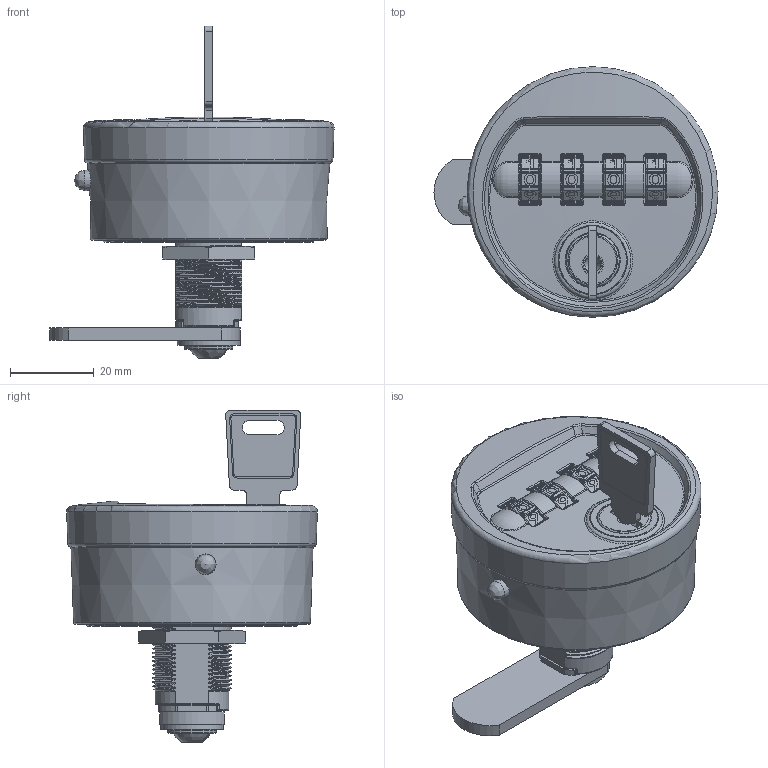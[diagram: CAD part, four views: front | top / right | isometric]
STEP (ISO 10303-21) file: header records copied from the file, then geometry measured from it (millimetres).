
FILE_DESCRIPTION(/* description */ (''),/* implementation_level */ '2;1');
FILE_NAME(/* name */ '1401_3D_STEP.stp',/* time_stamp */ '2015-09-16T13:16:39+02:00',/* author */ (''),/* organization */ (''),/* preprocessor_version */ 'ST-DEVELOPER v14',/* originating_system */ 'SIEMENS PLM Software NX 8.0',/* authorisation */ '');
FILE_SCHEMA (('AUTOMOTIVE_DESIGN { 1 0 10303 214 3 1 1 1 }'));
Length unit declared in the file: millimetre
Products named in the file (1): Becc10F4E008rhzh
Bounding box: 68 x 60 x 79.46 mm (x, y, z)
Volume: 81681.1 mm3; surface area: 32263.5 mm2
Topology: 16 solids, 16 shells, 2175 faces, 5317 edges, 3089 vertices
Faces by surface type: cylinder 699, plane 557, bspline 362, torus 335, extrusion 160, cone 35, revolution 17, sphere 10
Full cylindrical faces by diameter (mm): 4.6 x1, 5 x13, 5.3 x1, 10 x1, 10.07 x1, 11.5 x1, 12.2 x1, 12.3 x1, 12.8 x1, 13 x1, 15 x1, 16.34 x1, 16.39 x1
Entity records: 88151 total; most frequent: CARTESIAN_POINT 41082, ORIENTED_EDGE 10038, DIRECTION 8592, EDGE_CURVE 5019, AXIS2_PLACEMENT_3D 3199, VERTEX_POINT 3041, EDGE_LOOP 2342, VECTOR 2177
